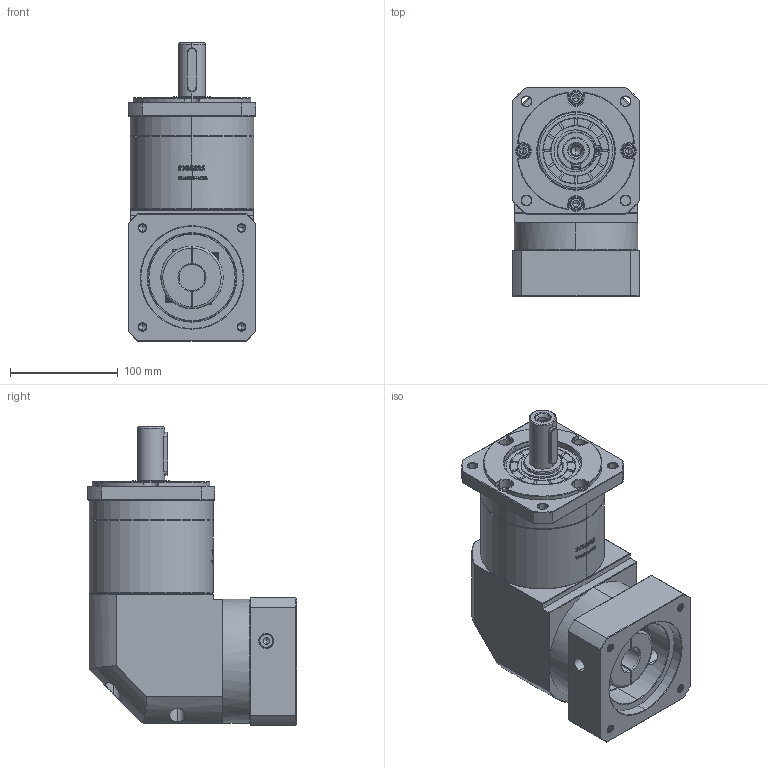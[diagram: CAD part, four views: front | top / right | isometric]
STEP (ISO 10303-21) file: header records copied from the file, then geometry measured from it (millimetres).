
FILE_DESCRIPTION (( 'STEP AP214' ), '1' );
FILE_NAME ('ZFR120A-D25-L2-24-95-130-M8.step', '2023-03-08T08:21:11', ( '' ), ( '' ), 'SwSTEP 2.0', 'SolidWorks 2016', '' );
FILE_SCHEMA (( 'AUTOMOTIVE_DESIGN' ));
Length unit declared in the file: millimetre
Products named in the file (1): ZFR120A-D25-L2-24-95-130-M8
Bounding box: 118 x 193.9 x 276.5 mm (x, y, z)
Volume: 3189903.9 mm3; surface area: 254057.4 mm2
Topology: 6 solids, 6 shells, 2870 faces, 7680 edges, 4955 vertices
Faces by surface type: plane 1484, bspline 606, cylinder 434, cone 338, torus 8
Entity records: 157859 total; most frequent: CARTESIAN_POINT 60446, ORIENTED_EDGE 15300, DIRECTION 11132, EDGE_CURVE 7650, VERTEX_POINT 4955, LINE 4750, VECTOR 4750, AXIS2_PLACEMENT_3D 3191
